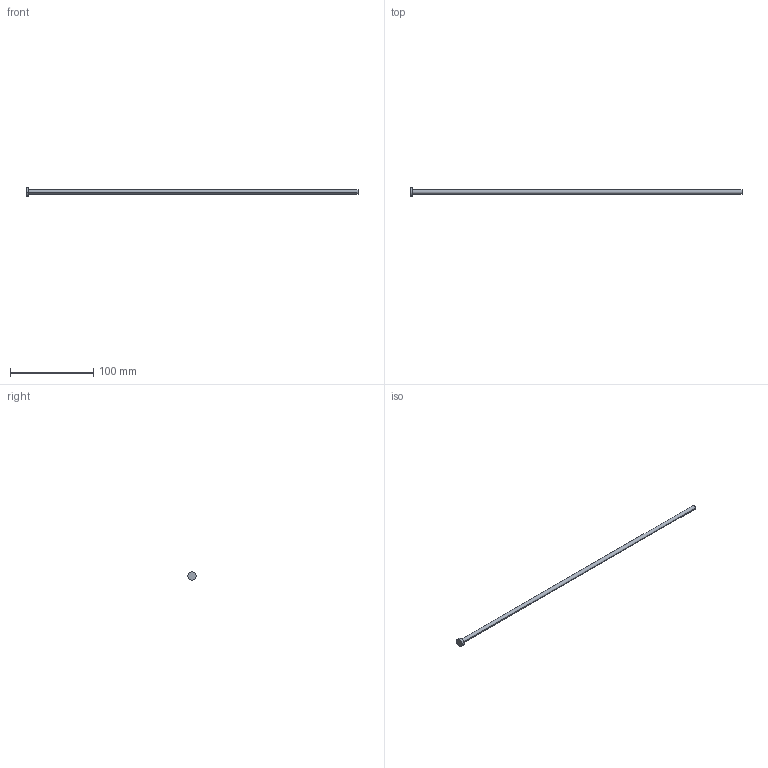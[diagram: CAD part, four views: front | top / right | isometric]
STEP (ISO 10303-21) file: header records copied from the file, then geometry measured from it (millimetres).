
FILE_DESCRIPTION (( 'STEP AP214' ), '1' );
FILE_NAME ('A-5x400.STEP', '2020-05-29T15:35:09', ( 'August' ), ( '' ), 'SwSTEP 2.0', 'SolidWorks 2018', '' );
FILE_SCHEMA (( 'AUTOMOTIVE_DESIGN' ));
Length unit declared in the file: millimetre
Products named in the file (1): A-5x400
Bounding box: 400 x 10 x 10 mm (x, y, z)
Volume: 8031 mm3; surface area: 6485.4 mm2
Topology: 1 solids, 1 shells, 9 faces, 16 edges, 10 vertices
Faces by surface type: cylinder 4, plane 3, torus 2
Entity records: 260 total; most frequent: DIRECTION 48, CARTESIAN_POINT 36, ORIENTED_EDGE 32, AXIS2_PLACEMENT_3D 22, EDGE_CURVE 16, CIRCLE 12, VERTEX_POINT 10, EDGE_LOOP 10
